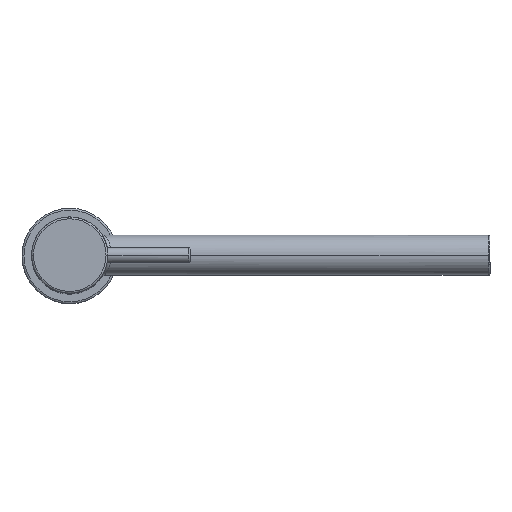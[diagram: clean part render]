
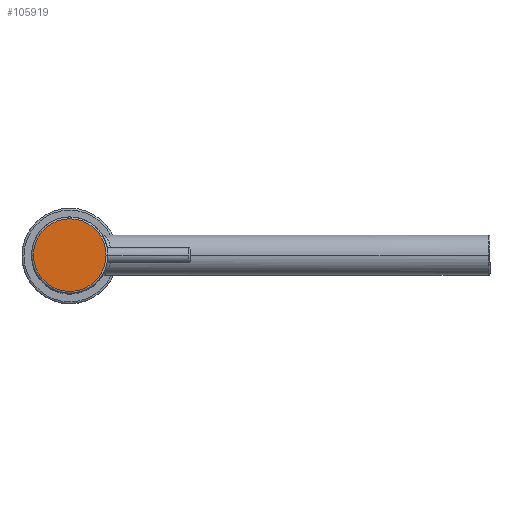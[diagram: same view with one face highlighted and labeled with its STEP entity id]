
A CAD part, top view. The second image highlights one B-rep face of the part: STEP entity #105919.
In plain terms, the highlighted planar face has unit normal (0, 0, 1).
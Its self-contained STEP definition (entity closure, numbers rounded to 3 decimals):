
#3228 = FACE_OUTER_BOUND ( 'NONE', #100553, .T. ) ;
#4713 = ORIENTED_EDGE ( 'NONE', *, *, #29170, .F. ) ;
#6131 = EDGE_CURVE ( 'NONE', #68432, #36712, #44428, .T. ) ;
#9186 = CARTESIAN_POINT ( 'NONE',  ( 0., 0., 136. ) ) ;
#18078 = CARTESIAN_POINT ( 'NONE',  ( -19., 0., 136. ) ) ;
#28545 = AXIS2_PLACEMENT_3D ( 'NONE', #9186, #125839, #35818 ) ;
#29170 = EDGE_CURVE ( 'NONE', #36712, #68432, #140222, .T. ) ;
#35818 = DIRECTION ( 'NONE',  ( -1., 0., 0. ) ) ;
#36712 = VERTEX_POINT ( 'NONE', #18078 ) ;
#40684 = CARTESIAN_POINT ( 'NONE',  ( 0., 0., 136. ) ) ;
#44428 = CIRCLE ( 'NONE', #28545, 19. ) ;
#52377 = PLANE ( 'NONE',  #73011 ) ;
#68432 = VERTEX_POINT ( 'NONE', #112880 ) ;
#73011 = AXIS2_PLACEMENT_3D ( 'NONE', #40684, #116575, #91625 ) ;
#91625 = DIRECTION ( 'NONE',  ( -1., 0., 0. ) ) ;
#91861 = DIRECTION ( 'NONE',  ( 0., 0., -1. ) ) ;
#100205 = AXIS2_PLACEMENT_3D ( 'NONE', #144334, #91861, #157600 ) ;
#100553 = EDGE_LOOP ( 'NONE', ( #4713, #151831 ) ) ;
#105919 = ADVANCED_FACE ( 'NONE', ( #3228 ), #52377, .F. ) ;
#112880 = CARTESIAN_POINT ( 'NONE',  ( 19., 0., 136. ) ) ;
#116575 = DIRECTION ( 'NONE',  ( 0., 0., -1. ) ) ;
#125839 = DIRECTION ( 'NONE',  ( 0., 0., -1. ) ) ;
#140222 = CIRCLE ( 'NONE', #100205, 19. ) ;
#144334 = CARTESIAN_POINT ( 'NONE',  ( 0., 0., 136. ) ) ;
#151831 = ORIENTED_EDGE ( 'NONE', *, *, #6131, .F. ) ;
#157600 = DIRECTION ( 'NONE',  ( -1., 0., 0. ) ) ;
